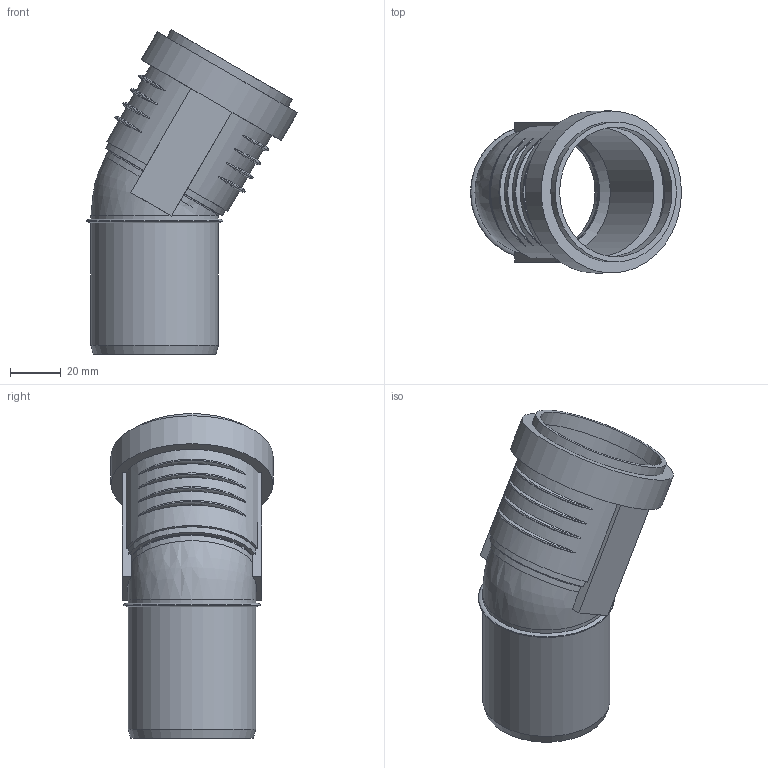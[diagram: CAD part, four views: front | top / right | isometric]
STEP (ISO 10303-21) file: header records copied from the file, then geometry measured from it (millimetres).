
FILE_DESCRIPTION(/* description */ (''),/* implementation_level */ '2;1');
FILE_NAME(/* name */ 'Z:\Geberit\Export\NewStep\390221.stp',/* time_stamp */ '2014-04-02T08:10:02+02:00',/* author */ ('ML'),/* organization */ (''),/* preprocessor_version */ 'ST-DEVELOPER v15.2',/* originating_system */ 'Autodesk Inventor 2014',/* authorisation */ '');
FILE_SCHEMA (('AUTOMOTIVE_DESIGN { 1 0 10303 214 3 1 1 }'));
Length unit declared in the file: millimetre
Products named in the file (3): 861322; 861401; 390221
Bounding box: 82.99 x 63.7 x 127.7 mm (x, y, z)
Volume: 46026.6 mm3; surface area: 46870.8 mm2
Topology: 2 solids, 2 shells, 68 faces, 162 edges, 109 vertices
Faces by surface type: torus 28, plane 19, cylinder 18, cone 2, bspline 1
Full cylindrical faces by diameter (mm): 46.15 x3, 50.15 x4, 51 x2, 55 x1, 59.7 x1, 63.7 x1
Entity records: 2630 total; most frequent: CARTESIAN_POINT 1054, DIRECTION 290, ORIENTED_EDGE 278, EDGE_CURVE 139, AXIS2_PLACEMENT_3D 127, VERTEX_POINT 106, EDGE_LOOP 103, STYLED_ITEM 70
